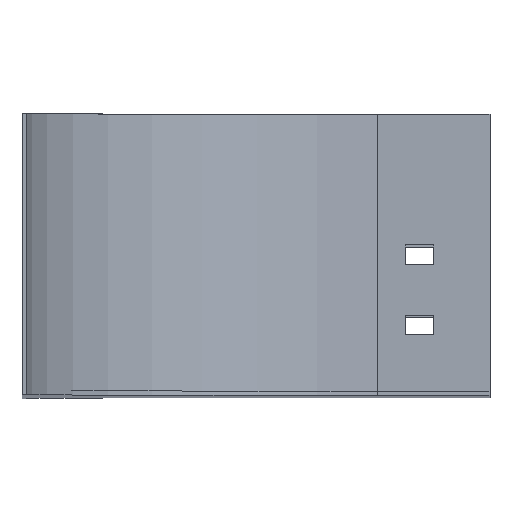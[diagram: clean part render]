
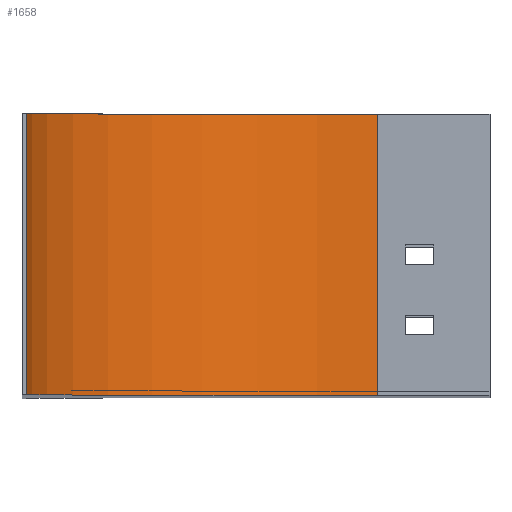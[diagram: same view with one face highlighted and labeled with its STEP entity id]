
A CAD part, top view. The second image highlights one B-rep face of the part: STEP entity #1658.
In plain terms, the highlighted cylindrical face has radius 125 mm (diameter 250 mm), a partial arc.
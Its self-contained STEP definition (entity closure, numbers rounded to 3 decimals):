
#6 = CARTESIAN_POINT ( 'NONE',  ( 0., 100., -125. ) ) ;
#22 = EDGE_CURVE ( 'NONE', #439, #846, #321, .T. ) ;
#43 = DIRECTION ( 'NONE',  ( 0., -1., 0. ) ) ;
#100 = VERTEX_POINT ( 'NONE', #1633 ) ;
#136 = CARTESIAN_POINT ( 'NONE',  ( -125., 0., 0. ) ) ;
#146 = CARTESIAN_POINT ( 'NONE',  ( 0., 0., 0. ) ) ;
#159 = AXIS2_PLACEMENT_3D ( 'NONE', #843, #43, #685 ) ;
#194 = ORIENTED_EDGE ( 'NONE', *, *, #641, .F. ) ;
#321 = CIRCLE ( 'NONE', #1248, 125. ) ;
#435 = CARTESIAN_POINT ( 'NONE',  ( 0., 100., 0. ) ) ;
#439 = VERTEX_POINT ( 'NONE', #136 ) ;
#449 = DIRECTION ( 'NONE',  ( 0., 0., -1. ) ) ;
#459 = CARTESIAN_POINT ( 'NONE',  ( 0., 100., -125. ) ) ;
#526 = EDGE_CURVE ( 'NONE', #100, #439, #1056, .T. ) ;
#533 = ORIENTED_EDGE ( 'NONE', *, *, #22, .T. ) ;
#641 = EDGE_CURVE ( 'NONE', #100, #983, #859, .T. ) ;
#685 = DIRECTION ( 'NONE',  ( 0., 0., -1. ) ) ;
#704 = VECTOR ( 'NONE', #1194, 1000. ) ;
#715 = EDGE_CURVE ( 'NONE', #983, #846, #1592, .T. ) ;
#730 = AXIS2_PLACEMENT_3D ( 'NONE', #435, #1622, #449 ) ;
#737 = EDGE_LOOP ( 'NONE', ( #533, #898, #194, #1382 ) ) ;
#843 = CARTESIAN_POINT ( 'NONE',  ( 0., 100., 0. ) ) ;
#846 = VERTEX_POINT ( 'NONE', #1114 ) ;
#859 = CIRCLE ( 'NONE', #730, 125. ) ;
#898 = ORIENTED_EDGE ( 'NONE', *, *, #715, .F. ) ;
#983 = VERTEX_POINT ( 'NONE', #6 ) ;
#1048 = DIRECTION ( 'NONE',  ( 0., -1., 0. ) ) ;
#1056 = LINE ( 'NONE', #1579, #1367 ) ;
#1087 = FACE_OUTER_BOUND ( 'NONE', #737, .T. ) ;
#1114 = CARTESIAN_POINT ( 'NONE',  ( 0., 0., -125. ) ) ;
#1180 = DIRECTION ( 'NONE',  ( 0., -1., 0. ) ) ;
#1186 = CYLINDRICAL_SURFACE ( 'NONE', #159, 125. ) ;
#1194 = DIRECTION ( 'NONE',  ( 0., -1., 0. ) ) ;
#1248 = AXIS2_PLACEMENT_3D ( 'NONE', #146, #1180, #1459 ) ;
#1367 = VECTOR ( 'NONE', #1048, 1000. ) ;
#1382 = ORIENTED_EDGE ( 'NONE', *, *, #526, .T. ) ;
#1459 = DIRECTION ( 'NONE',  ( 0., 0., -1. ) ) ;
#1579 = CARTESIAN_POINT ( 'NONE',  ( -125., 100., 0. ) ) ;
#1592 = LINE ( 'NONE', #459, #704 ) ;
#1622 = DIRECTION ( 'NONE',  ( 0., -1., 0. ) ) ;
#1633 = CARTESIAN_POINT ( 'NONE',  ( -125., 100., 0. ) ) ;
#1658 = ADVANCED_FACE ( 'NONE', ( #1087 ), #1186, .F. ) ;
